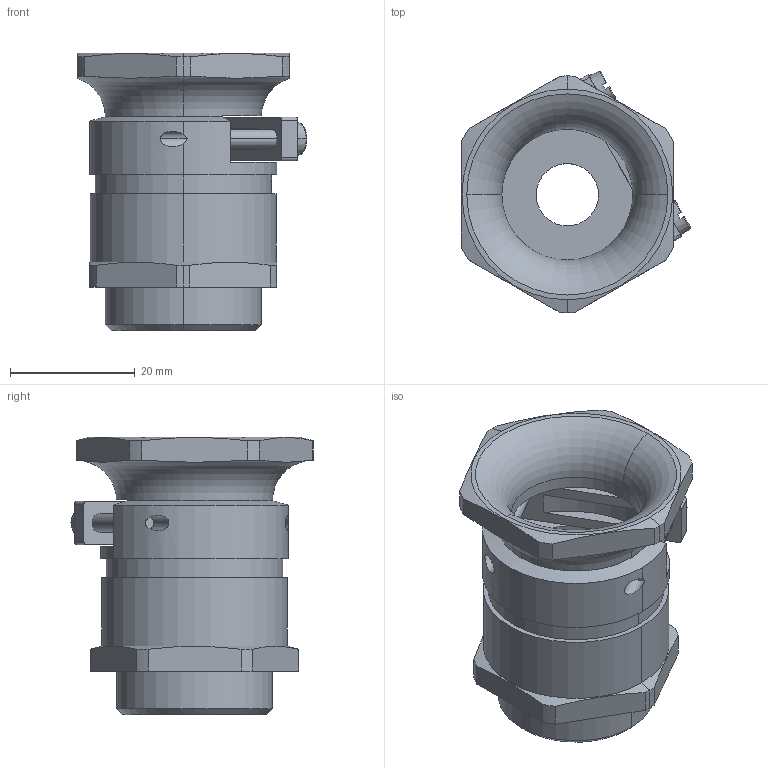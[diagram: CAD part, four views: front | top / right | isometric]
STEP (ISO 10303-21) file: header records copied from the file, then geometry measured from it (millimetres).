
FILE_DESCRIPTION (( 'STEP AP203' ), '1' );
FILE_NAME ('23.621M25.STEP', '2006-08-01T10:47:01', ( ' ' ), ( '' ), 'SwSTEP 2.0', 'SolidWorks 2005278', '' );
FILE_SCHEMA (( 'CONFIG_CONTROL_DESIGN' ));
Length unit declared in the file: millimetre
Products named in the file (1): 23.621M25
Bounding box: 36.78 x 38.81 x 44.5 mm (x, y, z)
Volume: 15512.4 mm3; surface area: 9397.1 mm2
Topology: 1 solids, 1 shells, 147 faces, 385 edges, 251 vertices
Faces by surface type: plane 82, cylinder 42, cone 13, torus 10
Entity records: 4887 total; most frequent: CARTESIAN_POINT 1136, ORIENTED_EDGE 770, DIRECTION 768, EDGE_CURVE 385, AXIS2_PLACEMENT_3D 277, VERTEX_POINT 251, VECTOR 214, LINE 214
